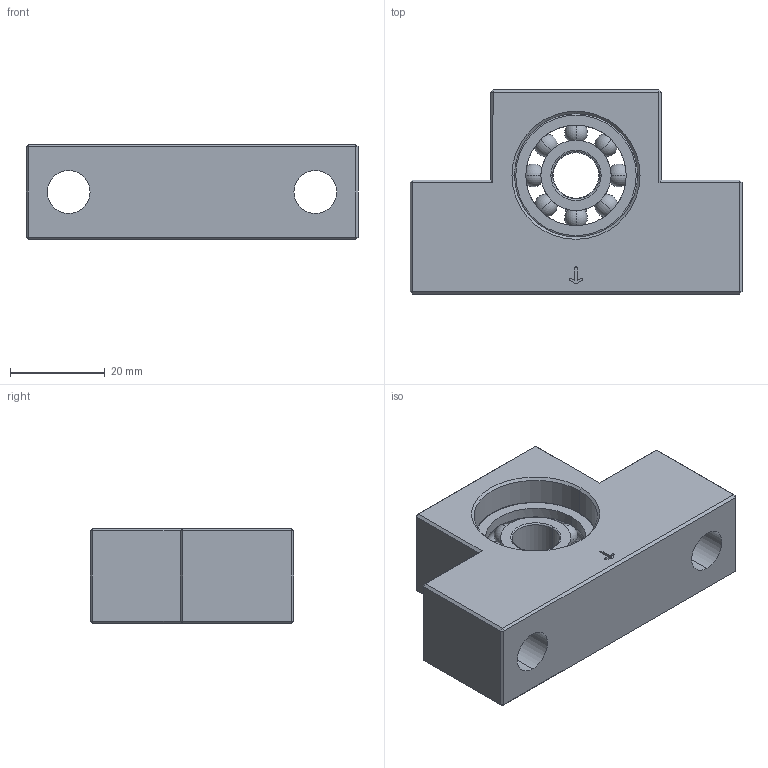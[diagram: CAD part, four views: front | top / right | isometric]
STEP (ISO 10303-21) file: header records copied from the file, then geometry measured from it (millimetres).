
FILE_DESCRIPTION (( 'STEP AP203' ), '1' );
FILE_NAME ('GUN12.STEP', '2013-10-29T05:35:44', ( 'user' ), ( '' ), 'SwSTEP 2.0', 'SolidWorks 2013', '' );
FILE_SCHEMA (( 'CONFIG_CONTROL_DESIGN' ));
Length unit declared in the file: millimetre
Products named in the file (1): GUN12
Bounding box: 70 x 43 x 20 mm (x, y, z)
Surface area: 12955.6 mm2 (no closed solid volume)
Topology: 0 solids, 3 shells, 133 faces, 455 edges, 290 vertices
Faces by surface type: plane 62, cylinder 35, torus 16, sphere 16, cone 4
Entity records: 5180 total; most frequent: CARTESIAN_POINT 1535, ORIENTED_EDGE 758, DIRECTION 729, EDGE_CURVE 407, AXIS2_PLACEMENT_3D 284, VERTEX_POINT 258, VECTOR 161, LINE 161
